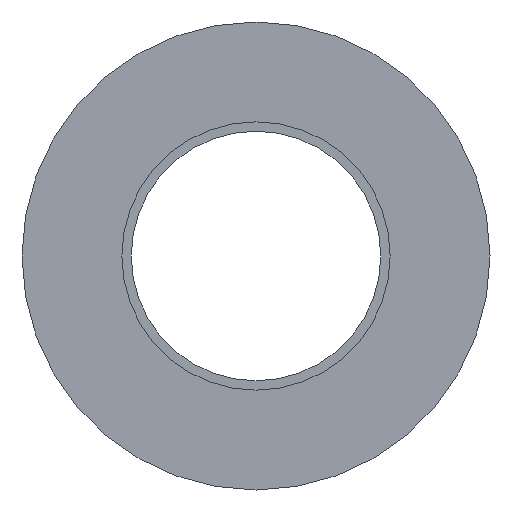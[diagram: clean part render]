
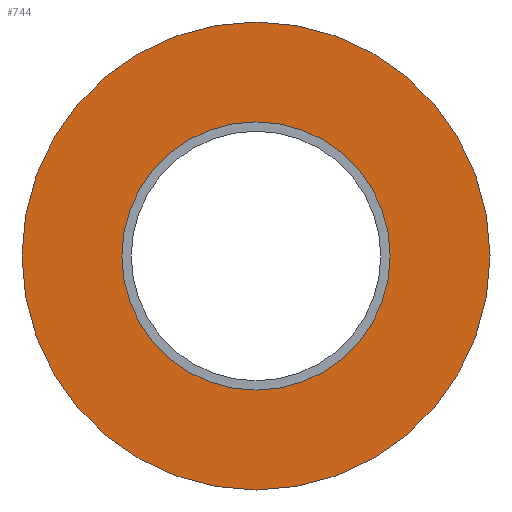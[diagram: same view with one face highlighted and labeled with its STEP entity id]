
A CAD part, left-side view. The second image highlights one B-rep face of the part: STEP entity #744.
In plain terms, the highlighted planar face has unit normal (-1, 0, 0).
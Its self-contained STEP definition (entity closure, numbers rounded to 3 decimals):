
#130=CARTESIAN_POINT('',(0.0,8.6,0.0));
#131=VERTEX_POINT('',#130);
#140=CARTESIAN_POINT('',(0.0,-8.6,0.));
#141=VERTEX_POINT('',#140);
#142=CARTESIAN_POINT('',(0.0,0.0,0.0));
#143=DIRECTION('',(1.0,0.0,0.0));
#144=DIRECTION('',(0.0,1.0,0.0));
#145=AXIS2_PLACEMENT_3D('',#142,#143,#144);
#146=CIRCLE('',#145,8.6);
#147=EDGE_CURVE('',#141,#131,#146,.T.);
#214=CARTESIAN_POINT('',(0.,15.0,0.0));
#215=VERTEX_POINT('',#214);
#224=CARTESIAN_POINT('',(0.,-15.0,0.));
#225=VERTEX_POINT('',#224);
#226=CARTESIAN_POINT('',(0.,0.0,0.0));
#227=DIRECTION('',(1.0,0.0,0.0));
#228=DIRECTION('',(0.0,1.0,0.0));
#229=AXIS2_PLACEMENT_3D('',#226,#227,#228);
#230=CIRCLE('',#229,15.0);
#231=EDGE_CURVE('',#215,#225,#230,.T.);
#645=CARTESIAN_POINT('',(0.,0.0,0.0));
#646=DIRECTION('',(1.0,0.0,0.0));
#647=DIRECTION('',(0.0,1.0,0.0));
#648=AXIS2_PLACEMENT_3D('',#645,#646,#647);
#649=CIRCLE('',#648,15.0);
#650=EDGE_CURVE('',#225,#215,#649,.T.);
#721=CARTESIAN_POINT('',(0.0,0.0,0.0));
#722=DIRECTION('',(1.0,0.0,0.0));
#723=DIRECTION('',(0.0,1.0,0.0));
#724=AXIS2_PLACEMENT_3D('',#721,#722,#723);
#725=CIRCLE('',#724,8.6);
#726=EDGE_CURVE('',#131,#141,#725,.T.);
#731=CARTESIAN_POINT('',(0.,11.8,0.0));
#732=DIRECTION('',(-1.0,0.0,0.0));
#733=DIRECTION('',(0.0,0.0,1.0));
#734=AXIS2_PLACEMENT_3D('',#731,#732,#733);
#735=PLANE('',#734);
#736=ORIENTED_EDGE('',*,*,#231,.F.);
#737=ORIENTED_EDGE('',*,*,#650,.F.);
#738=EDGE_LOOP('',(#736,#737));
#739=FACE_OUTER_BOUND('',#738,.T.);
#740=ORIENTED_EDGE('',*,*,#726,.T.);
#741=ORIENTED_EDGE('',*,*,#147,.T.);
#742=EDGE_LOOP('',(#740,#741));
#743=FACE_BOUND('',#742,.T.);
#744=ADVANCED_FACE('',(#739,#743),#735,.T.);
